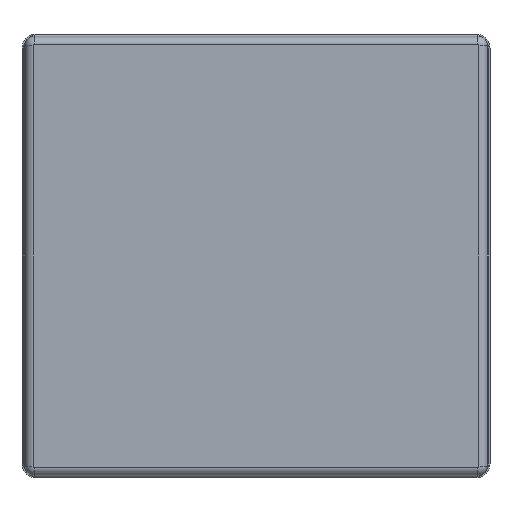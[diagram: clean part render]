
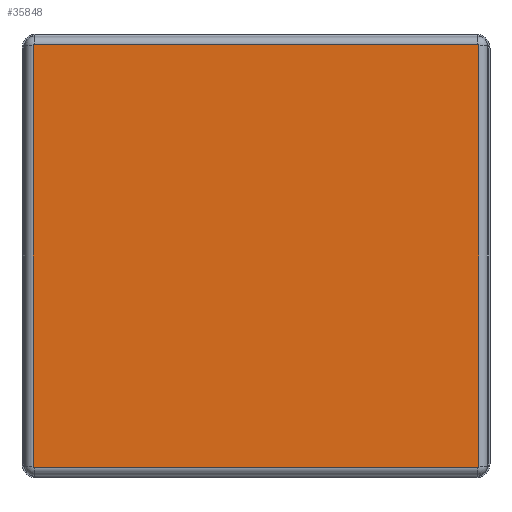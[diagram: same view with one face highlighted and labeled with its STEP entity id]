
A CAD part, front view. The second image highlights one B-rep face of the part: STEP entity #35848.
In plain terms, the highlighted planar face has unit normal (0, -1, 0).
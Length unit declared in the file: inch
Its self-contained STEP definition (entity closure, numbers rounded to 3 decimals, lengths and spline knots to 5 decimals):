
#171 = DIRECTION ( 'NONE',  ( 0., -1., 0. ) ) ;
#491 = AXIS2_PLACEMENT_3D ( 'NONE', #33794, #19317, #27714 ) ;
#1160 = VERTEX_POINT ( 'NONE', #11414 ) ;
#2147 = CARTESIAN_POINT ( 'NONE',  ( 3.277, -0.079, 3.0985 ) ) ;
#3047 = EDGE_CURVE ( 'NONE', #22455, #6331, #22653, .T. ) ;
#6288 = ORIENTED_EDGE ( 'NONE', *, *, #32437, .T. ) ;
#6331 = VERTEX_POINT ( 'NONE', #10776 ) ;
#6777 = EDGE_CURVE ( 'NONE', #37001, #11243, #38631, .T. ) ;
#8031 = CARTESIAN_POINT ( 'NONE',  ( 3.277, -0.079, -3.0985 ) ) ;
#9879 = ORIENTED_EDGE ( 'NONE', *, *, #3047, .T. ) ;
#10589 = CARTESIAN_POINT ( 'NONE',  ( 3.267, -0.079, 3.0985 ) ) ;
#10776 = CARTESIAN_POINT ( 'NONE',  ( -3.267, -0.079, -3.1085 ) ) ;
#11243 = VERTEX_POINT ( 'NONE', #8031 ) ;
#11414 = CARTESIAN_POINT ( 'NONE',  ( 3.267, -0.079, 3.1085 ) ) ;
#11488 = ORIENTED_EDGE ( 'NONE', *, *, #36972, .T. ) ;
#11871 = ORIENTED_EDGE ( 'NONE', *, *, #38234, .T. ) ;
#11899 = DIRECTION ( 'NONE',  ( 0., 0., -1. ) ) ;
#12281 = CIRCLE ( 'NONE', #32286, 0.01 ) ;
#12477 = VECTOR ( 'NONE', #11899, 39.37008 ) ;
#12698 = VERTEX_POINT ( 'NONE', #35122 ) ;
#13000 = ORIENTED_EDGE ( 'NONE', *, *, #6777, .T. ) ;
#13595 = LINE ( 'NONE', #25524, #22675 ) ;
#13926 = VECTOR ( 'NONE', #37963, 39.37008 ) ;
#14514 = DIRECTION ( 'NONE',  ( 0., -1., 0. ) ) ;
#15842 = CARTESIAN_POINT ( 'NONE',  ( 3.267, -0.079, -3.1085 ) ) ;
#15950 = CIRCLE ( 'NONE', #24673, 0.01 ) ;
#17443 = LINE ( 'NONE', #26992, #37230 ) ;
#18549 = CARTESIAN_POINT ( 'NONE',  ( -3.277, -0.079, -3.0985 ) ) ;
#18677 = VERTEX_POINT ( 'NONE', #28900 ) ;
#19317 = DIRECTION ( 'NONE',  ( 0., -1., 0. ) ) ;
#19688 = EDGE_CURVE ( 'NONE', #18677, #22455, #33045, .T. ) ;
#20788 = EDGE_CURVE ( 'NONE', #11243, #12698, #22883, .T. ) ;
#21249 = PLANE ( 'NONE',  #27765 ) ;
#22455 = VERTEX_POINT ( 'NONE', #18549 ) ;
#22653 = CIRCLE ( 'NONE', #32040, 0.01 ) ;
#22675 = VECTOR ( 'NONE', #31986, 39.37008 ) ;
#22883 = LINE ( 'NONE', #2147, #13926 ) ;
#22975 = ORIENTED_EDGE ( 'NONE', *, *, #36857, .T. ) ;
#23315 = CARTESIAN_POINT ( 'NONE',  ( -3.267, -0.079, -3.0985 ) ) ;
#24163 = VERTEX_POINT ( 'NONE', #38245 ) ;
#24673 = AXIS2_PLACEMENT_3D ( 'NONE', #10589, #25266, #37214 ) ;
#25053 = EDGE_LOOP ( 'NONE', ( #26322, #9879, #6288, #13000, #25436, #22975, #11488, #11871 ) ) ;
#25266 = DIRECTION ( 'NONE',  ( 0., -1., 0. ) ) ;
#25436 = ORIENTED_EDGE ( 'NONE', *, *, #20788, .T. ) ;
#25524 = CARTESIAN_POINT ( 'NONE',  ( 3.267, -0.079, -3.1085 ) ) ;
#26322 = ORIENTED_EDGE ( 'NONE', *, *, #19688, .T. ) ;
#26625 = DIRECTION ( 'NONE',  ( 0., 0., -1. ) ) ;
#26992 = CARTESIAN_POINT ( 'NONE',  ( -3.267, -0.079, 3.1085 ) ) ;
#27714 = DIRECTION ( 'NONE',  ( 0., 0., -1. ) ) ;
#27765 = AXIS2_PLACEMENT_3D ( 'NONE', #33754, #30227, #36701 ) ;
#28900 = CARTESIAN_POINT ( 'NONE',  ( -3.277, -0.079, 3.0985 ) ) ;
#30227 = DIRECTION ( 'NONE',  ( 0., -1., 0. ) ) ;
#30610 = FACE_OUTER_BOUND ( 'NONE', #25053, .T. ) ;
#31986 = DIRECTION ( 'NONE',  ( 1., 0., 0. ) ) ;
#32040 = AXIS2_PLACEMENT_3D ( 'NONE', #23315, #14514, #26625 ) ;
#32286 = AXIS2_PLACEMENT_3D ( 'NONE', #38556, #171, #35777 ) ;
#32437 = EDGE_CURVE ( 'NONE', #6331, #37001, #13595, .T. ) ;
#32694 = DIRECTION ( 'NONE',  ( -1., 0., 0. ) ) ;
#33045 = LINE ( 'NONE', #33233, #12477 ) ;
#33233 = CARTESIAN_POINT ( 'NONE',  ( -3.277, -0.079, -3.0985 ) ) ;
#33754 = CARTESIAN_POINT ( 'NONE',  ( -3.283, -0.079, -3.1145 ) ) ;
#33794 = CARTESIAN_POINT ( 'NONE',  ( 3.267, -0.079, -3.0985 ) ) ;
#35122 = CARTESIAN_POINT ( 'NONE',  ( 3.277, -0.079, 3.0985 ) ) ;
#35777 = DIRECTION ( 'NONE',  ( 0., 0., -1. ) ) ;
#35848 = ADVANCED_FACE ( 'NONE', ( #30610 ), #21249, .T. ) ;
#36701 = DIRECTION ( 'NONE',  ( 0., 0., -1. ) ) ;
#36857 = EDGE_CURVE ( 'NONE', #12698, #1160, #15950, .T. ) ;
#36972 = EDGE_CURVE ( 'NONE', #1160, #24163, #17443, .T. ) ;
#37001 = VERTEX_POINT ( 'NONE', #15842 ) ;
#37214 = DIRECTION ( 'NONE',  ( 0., 0., -1. ) ) ;
#37230 = VECTOR ( 'NONE', #32694, 39.37008 ) ;
#37963 = DIRECTION ( 'NONE',  ( 0., 0., 1. ) ) ;
#38234 = EDGE_CURVE ( 'NONE', #24163, #18677, #12281, .T. ) ;
#38245 = CARTESIAN_POINT ( 'NONE',  ( -3.267, -0.079, 3.1085 ) ) ;
#38556 = CARTESIAN_POINT ( 'NONE',  ( -3.267, -0.079, 3.0985 ) ) ;
#38631 = CIRCLE ( 'NONE', #491, 0.01 ) ;
